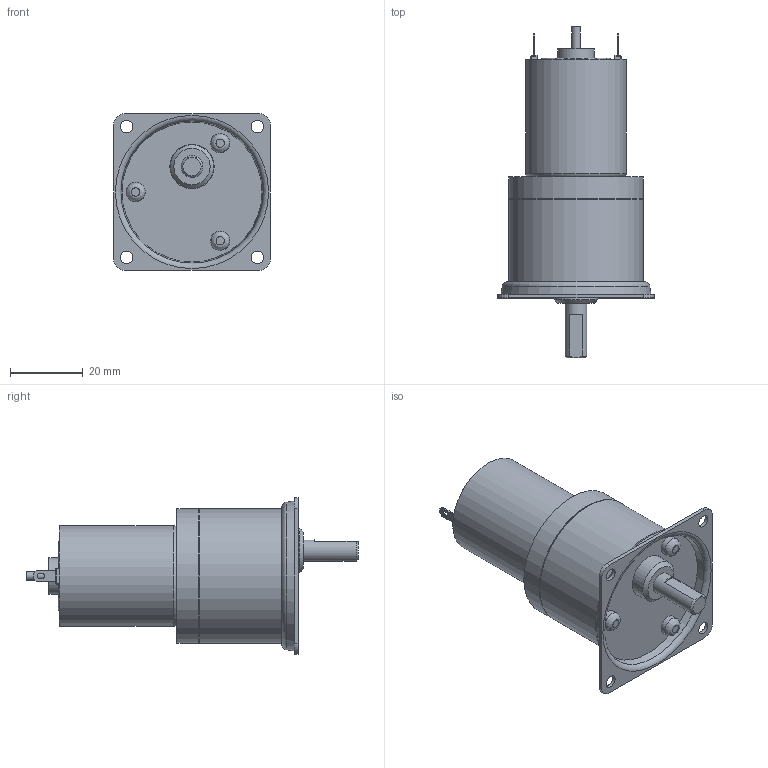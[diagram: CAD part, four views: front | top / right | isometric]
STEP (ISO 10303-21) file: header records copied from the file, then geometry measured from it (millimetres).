
FILE_DESCRIPTION((''),'2;1');
FILE_NAME('C:\Documents and Settings\SSEGAWA\デスクトップ\TP-2732D-PHM-4.STP','2013-07-01T13:55:10',('SSEGAWA'),(''),'Autodesk Inventor 2010','Autodesk Inventor 2010','');
FILE_SCHEMA(('CONFIG_CONTROL_DESIGN'));
Length unit declared in the file: millimetre
Products named in the file (5): tp_2732def_phm_4; phm_4; hm_4; □43; tp_2732d,e,f
Assembly tree (4 placements, depth 3):
  tp_2732def_phm_4
    phm_4
      hm_4
      □43
    tp_2732d,e,f
Bounding box: 43 x 91.3 x 43 mm (x, y, z)
Volume: 53759.4 mm3; surface area: 15143.3 mm2
Topology: 3 solids, 3 shells, 177 faces, 391 edges, 251 vertices
Faces by surface type: plane 96, cylinder 43, bspline 28, torus 6, cone 4
Full cylindrical faces by diameter (mm): 2 x2, 2.305 x2, 2.5 x5, 5.3 x3, 6 x1, 9 x2, 10 x2, 12 x1, 12.2 x1, 19 x1, 26.7 x1, 27.7 x1, 36.6 x1, 37 x2
Entity records: 4939 total; most frequent: CARTESIAN_POINT 1198, DIRECTION 765, ORIENTED_EDGE 636, EDGE_CURVE 318, AXIS2_PLACEMENT_3D 291, EDGE_LOOP 275, VERTEX_POINT 231, VECTOR 183
